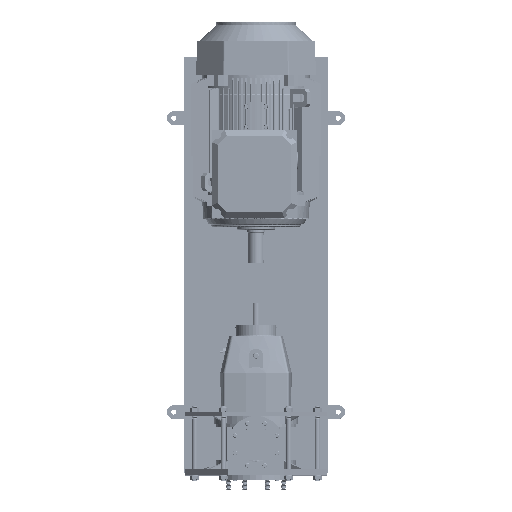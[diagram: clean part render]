
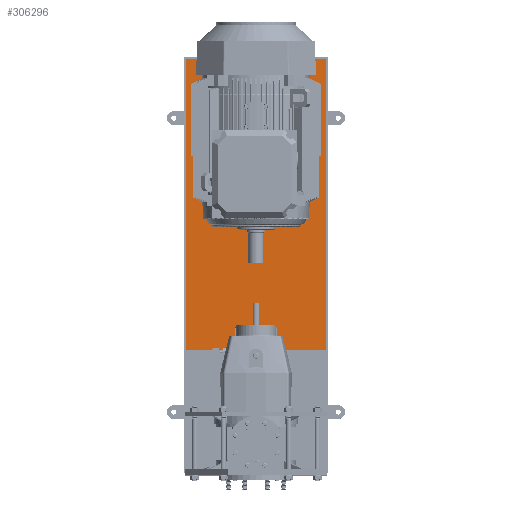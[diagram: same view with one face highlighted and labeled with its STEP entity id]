
A CAD part, top view. The second image highlights one B-rep face of the part: STEP entity #306296.
In plain terms, the highlighted planar face has unit normal (0, 0, 1).
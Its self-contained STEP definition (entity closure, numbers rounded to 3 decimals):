
#306231=CARTESIAN_POINT('',(246.5,437.0,-215.0));
#306232=VERTEX_POINT('',#306231);
#306233=CARTESIAN_POINT('',(-246.5,437.0,-215.0));
#306234=VERTEX_POINT('',#306233);
#306235=CARTESIAN_POINT('',(246.5,437.0,-215.0));
#306236=DIRECTION('',(-1.0,0.0,0.0));
#306237=VECTOR('',#306236,493.);
#306238=LINE('',#306235,#306237);
#306239=EDGE_CURVE('',#306232,#306234,#306238,.T.);
#306266=CARTESIAN_POINT('',(0.,949.5,-215.0));
#306267=DIRECTION('',(0.0,0.0,1.0));
#306268=DIRECTION('',(1.0,0.0,0.0));
#306269=AXIS2_PLACEMENT_3D('',#306266,#306267,#306268);
#306270=PLANE('',#306269);
#306271=CARTESIAN_POINT('',(-246.5,1462.0,-215.0));
#306272=VERTEX_POINT('',#306271);
#306273=CARTESIAN_POINT('',(246.5,1462.0,-215.0));
#306274=VERTEX_POINT('',#306273);
#306275=CARTESIAN_POINT('',(-246.5,1462.0,-215.0));
#306276=DIRECTION('',(1.0,0.0,0.0));
#306277=VECTOR('',#306276,493.0);
#306278=LINE('',#306275,#306277);
#306279=EDGE_CURVE('',#306272,#306274,#306278,.T.);
#306280=ORIENTED_EDGE('',*,*,#306279,.F.);
#306281=CARTESIAN_POINT('',(-246.5,437.0,-215.0));
#306282=DIRECTION('',(0.0,1.0,0.0));
#306283=VECTOR('',#306282,1025.0);
#306284=LINE('',#306281,#306283);
#306285=EDGE_CURVE('',#306234,#306272,#306284,.T.);
#306286=ORIENTED_EDGE('',*,*,#306285,.F.);
#306287=ORIENTED_EDGE('',*,*,#306239,.F.);
#306288=CARTESIAN_POINT('',(246.5,1462.0,-215.0));
#306289=DIRECTION('',(0.0,-1.0,0.0));
#306290=VECTOR('',#306289,1025.0);
#306291=LINE('',#306288,#306290);
#306292=EDGE_CURVE('',#306274,#306232,#306291,.T.);
#306293=ORIENTED_EDGE('',*,*,#306292,.F.);
#306294=EDGE_LOOP('',(#306280,#306286,#306287,#306293));
#306295=FACE_OUTER_BOUND('',#306294,.T.);
#306296=ADVANCED_FACE('',(#306295),#306270,.T.);
